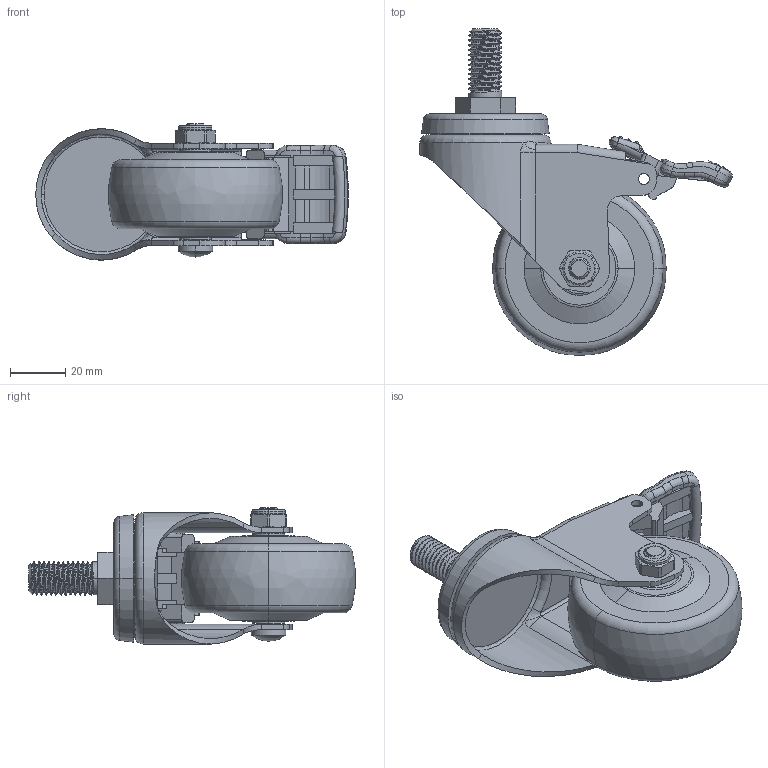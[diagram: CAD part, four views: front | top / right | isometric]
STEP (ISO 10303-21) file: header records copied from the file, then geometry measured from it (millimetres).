
FILE_DESCRIPTION((''),'2;1');
FILE_NAME('361125-3625-64_ASM','2020-01-03T',('L'),(''),'PRO/ENGINEER BY PARAMETRIC TECHNOLOGY CORPORATION, 2010280','PRO/ENGINEER BY PARAMETRIC TECHNOLOGY CORPORATION, 2010280','');
FILE_SCHEMA(('CONFIG_CONTROL_DESIGN'));
Length unit declared in the file: millimetre
Products named in the file (6): 361425H; 3625-964; 350-33A; 300-34; 3601-64; 361125-3625-64_ASM
Assembly tree (5 placements, depth 2):
  361125-3625-64_ASM
    361425H
    3625-964
    350-33A
    300-34
    3601-64
Bounding box: 113.04 x 118.11 x 49.25 mm (x, y, z)
Volume: 119932.7 mm3; surface area: 39408.4 mm2
Topology: 5 solids, 5 shells, 486 faces, 1235 edges, 772 vertices
Faces by surface type: cylinder 174, plane 149, bspline 81, torus 36, cone 32, sphere 14
Entity records: 24461 total; most frequent: CARTESIAN_POINT 13303, ORIENTED_EDGE 2466, DIRECTION 2060, EDGE_CURVE 1233, VERTEX_POINT 772, AXIS2_PLACEMENT_3D 769, VECTOR 522, LINE 522
